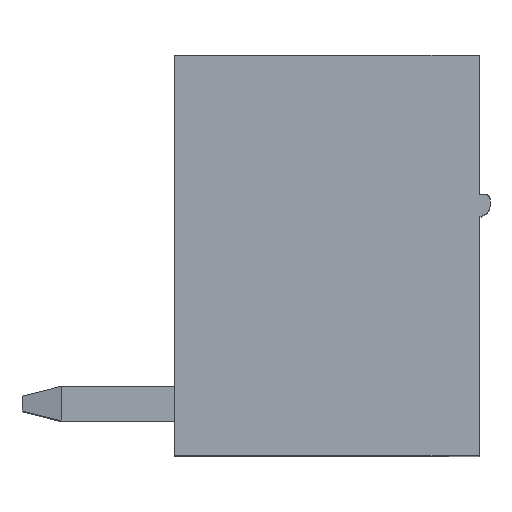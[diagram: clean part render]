
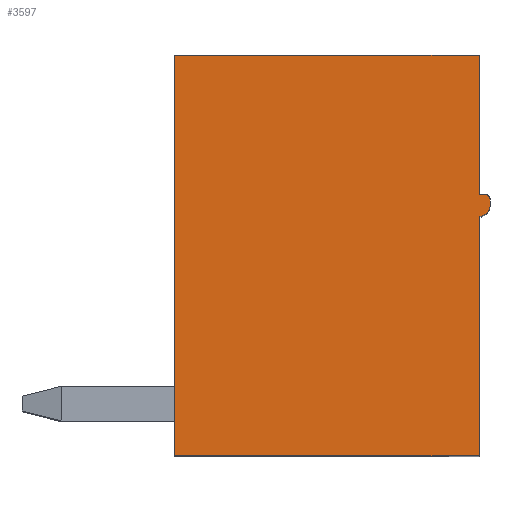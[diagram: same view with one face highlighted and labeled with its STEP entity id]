
A CAD part, top view. The second image highlights one B-rep face of the part: STEP entity #3597.
In plain terms, the highlighted planar face has unit normal (0, 0, 1).
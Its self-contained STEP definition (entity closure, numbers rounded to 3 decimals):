
#586=DIRECTION('',(1.,0.,0.));
#587=VECTOR('',#586,7.);
#588=CARTESIAN_POINT('',(0.073,3.5,-4.933));
#589=LINE('',#588,#587);
#622=DIRECTION('',(0.,1.,0.));
#623=VECTOR('',#622,5.5);
#624=CARTESIAN_POINT('',(7.073,3.5,-4.933));
#625=LINE('',#624,#623);
#646=DIRECTION('',(0.,1.,0.));
#647=VECTOR('',#646,3.2);
#648=CARTESIAN_POINT('',(7.073,9.5,-4.933));
#649=LINE('',#648,#647);
#688=DIRECTION('',(0.,1.,0.));
#689=VECTOR('',#688,9.2);
#690=CARTESIAN_POINT('',(0.073,3.5,-4.933));
#691=LINE('',#690,#689);
#692=DIRECTION('',(1.,0.,0.));
#693=VECTOR('',#692,7.);
#694=CARTESIAN_POINT('',(0.073,12.7,-4.933));
#695=LINE('',#694,#693);
#696=DIRECTION('',(1.,0.,0.));
#697=VECTOR('',#696,0.15);
#698=CARTESIAN_POINT('',(7.073,9.5,-4.933));
#699=LINE('',#698,#697);
#700=CARTESIAN_POINT('',(7.223,9.4,-4.933));
#701=DIRECTION('',(0.,0.,-1.));
#702=DIRECTION('',(0.,1.,0.));
#703=AXIS2_PLACEMENT_3D('',#700,#701,#702);
#705=DIRECTION('',(0.,-1.,0.));
#706=VECTOR('',#705,0.15);
#707=CARTESIAN_POINT('',(7.323,9.4,-4.933));
#708=LINE('',#707,#706);
#709=CARTESIAN_POINT('',(7.073,9.25,-4.933));
#710=DIRECTION('',(0.,0.,-1.));
#711=DIRECTION('',(1.,0.,0.));
#712=AXIS2_PLACEMENT_3D('',#709,#710,#711);
#2075=CARTESIAN_POINT('',(0.073,12.7,-4.933));
#2077=VERTEX_POINT('',#2075);
#2081=CARTESIAN_POINT('',(7.073,12.7,-4.933));
#2082=VERTEX_POINT('',#2081);
#2308=CARTESIAN_POINT('',(0.073,3.5,-4.933));
#2309=VERTEX_POINT('',#2308);
#2318=CARTESIAN_POINT('',(7.073,3.5,-4.933));
#2320=VERTEX_POINT('',#2318);
#2343=CARTESIAN_POINT('',(7.073,9.,-4.933));
#2345=VERTEX_POINT('',#2343);
#2346=CARTESIAN_POINT('',(7.323,9.25,-4.933));
#2348=VERTEX_POINT('',#2346);
#2351=CARTESIAN_POINT('',(7.323,9.4,-4.933));
#2353=VERTEX_POINT('',#2351);
#2354=CARTESIAN_POINT('',(7.223,9.5,-4.933));
#2356=VERTEX_POINT('',#2354);
#2359=CARTESIAN_POINT('',(7.073,9.5,-4.933));
#2361=VERTEX_POINT('',#2359);
#3581=CARTESIAN_POINT('',(3.698,8.1,-4.933));
#3582=DIRECTION('',(0.,0.,1.));
#3583=DIRECTION('',(1.,0.,0.));
#3584=AXIS2_PLACEMENT_3D('',#3581,#3582,#3583);
#3585=PLANE('',#3584);
#3586=ORIENTED_EDGE('',*,*,#3450,.F.);
#3587=ORIENTED_EDGE('',*,*,#3398,.T.);
#3588=ORIENTED_EDGE('',*,*,#3275,.T.);
#3589=ORIENTED_EDGE('',*,*,#3559,.F.);
#3590=ORIENTED_EDGE('',*,*,#3545,.T.);
#3591=ORIENTED_EDGE('',*,*,#3530,.T.);
#3592=ORIENTED_EDGE('',*,*,#3515,.T.);
#3593=ORIENTED_EDGE('',*,*,#3500,.T.);
#3594=ORIENTED_EDGE('',*,*,#3485,.F.);
#3595=EDGE_LOOP('',(#3586,#3587,#3588,#3589,#3590,#3591,#3592,#3593,#3594));
#3596=FACE_OUTER_BOUND('',#3595,.F.);
#3597=ADVANCED_FACE('',(#3596),#3585,.T.);
#704=CIRCLE('',#703,0.1);
#713=CIRCLE('',#712,0.25);
#3275=EDGE_CURVE('',#2077,#2082,#695,.T.);
#3398=EDGE_CURVE('',#2309,#2077,#691,.T.);
#3450=EDGE_CURVE('',#2309,#2320,#589,.T.);
#3485=EDGE_CURVE('',#2320,#2345,#625,.T.);
#3500=EDGE_CURVE('',#2348,#2345,#713,.T.);
#3515=EDGE_CURVE('',#2353,#2348,#708,.T.);
#3530=EDGE_CURVE('',#2356,#2353,#704,.T.);
#3545=EDGE_CURVE('',#2361,#2356,#699,.T.);
#3559=EDGE_CURVE('',#2361,#2082,#649,.T.);
